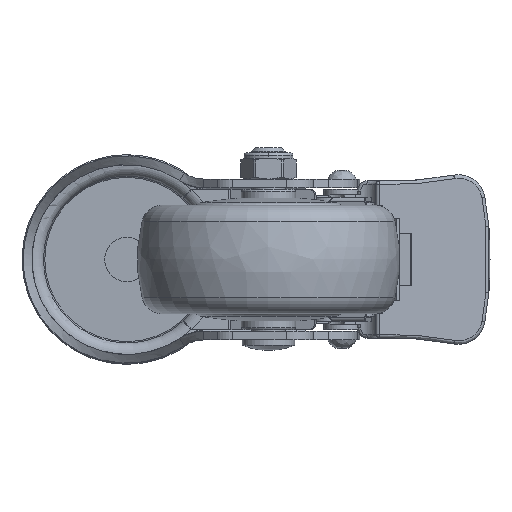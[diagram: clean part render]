
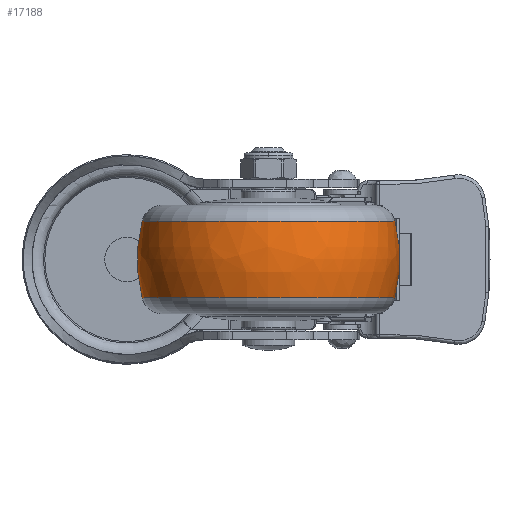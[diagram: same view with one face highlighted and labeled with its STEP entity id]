
A CAD part, front view. The second image highlights one B-rep face of the part: STEP entity #17188.
In plain terms, the highlighted free-form (B-spline) face has degree [3, 3] with [7, 4] control points.
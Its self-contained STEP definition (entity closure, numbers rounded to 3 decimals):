
#16497=CARTESIAN_POINT('',(-10.962,0.,0.));
#16498=DIRECTION('',(-1.,0.,0.));
#16499=DIRECTION('',(0.,1.,0.));
#16500=AXIS2_PLACEMENT_3D('',#16497,#16498,#16499);
#16512=CARTESIAN_POINT('',(0.,-7.5,0.));
#16513=DIRECTION('',(0.,0.,1.));
#16514=DIRECTION('',(0.244,0.97,0.));
#16515=AXIS2_PLACEMENT_3D('',#16512,#16513,#16514);
#16517=CARTESIAN_POINT('',(0.,7.5,0.));
#16518=DIRECTION('',(0.,0.,-1.));
#16519=DIRECTION('',(0.244,-0.97,0.));
#16520=AXIS2_PLACEMENT_3D('',#16517,#16518,#16519);
#16522=CARTESIAN_POINT('',(10.962,0.,0.));
#16523=DIRECTION('',(-1.,0.,0.));
#16524=DIRECTION('',(0.,1.,0.));
#16525=AXIS2_PLACEMENT_3D('',#16522,#16523,#16524);
#16762=CARTESIAN_POINT('',(10.962,36.145,0.));
#16764=VERTEX_POINT('',#16762);
#16765=CARTESIAN_POINT('',(-10.962,36.145,0.));
#16766=VERTEX_POINT('',#16765);
#16810=CARTESIAN_POINT('',(10.962,-36.145,0.));
#16812=VERTEX_POINT('',#16810);
#16813=CARTESIAN_POINT('',(-10.962,-36.145,0.));
#16814=VERTEX_POINT('',#16813);
#17152=CARTESIAN_POINT('',(-11.391,-35.963,
2.263));
#17153=CARTESIAN_POINT('',(-3.881,-37.924,
2.386));
#17154=CARTESIAN_POINT('',(3.881,-37.924,
2.386));
#17155=CARTESIAN_POINT('',(11.391,-35.963,
2.263));
#17156=CARTESIAN_POINT('',(-11.391,-37.356,
-19.869));
#17157=CARTESIAN_POINT('',(-3.881,-39.393,
-20.953));
#17158=CARTESIAN_POINT('',(3.881,-39.393,
-20.953));
#17159=CARTESIAN_POINT('',(11.391,-37.356,
-19.869));
#17160=CARTESIAN_POINT('',(-11.391,-22.176,
-36.035));
#17161=CARTESIAN_POINT('',(-3.881,-23.385,
-37.999));
#17162=CARTESIAN_POINT('',(3.881,-23.385,
-37.999));
#17163=CARTESIAN_POINT('',(11.391,-22.176,
-36.035));
#17164=CARTESIAN_POINT('',(-11.391,0.,-36.035));
#17165=CARTESIAN_POINT('',(-3.881,0.,-37.999));
#17166=CARTESIAN_POINT('',(3.881,0.,-37.999));
#17167=CARTESIAN_POINT('',(11.391,0.,-36.035));
#17168=CARTESIAN_POINT('',(-11.391,22.176,
-36.035));
#17169=CARTESIAN_POINT('',(-3.881,23.385,
-37.999));
#17170=CARTESIAN_POINT('',(3.881,23.385,
-37.999));
#17171=CARTESIAN_POINT('',(11.391,22.176,
-36.035));
#17172=CARTESIAN_POINT('',(-11.391,37.356,
-19.869));
#17173=CARTESIAN_POINT('',(-3.881,39.393,
-20.953));
#17174=CARTESIAN_POINT('',(3.881,39.393,
-20.953));
#17175=CARTESIAN_POINT('',(11.391,37.356,
-19.869));
#17176=CARTESIAN_POINT('',(-11.391,35.963,
2.263));
#17177=CARTESIAN_POINT('',(-3.881,37.924,
2.386));
#17178=CARTESIAN_POINT('',(3.881,37.924,2.386));
#17179=CARTESIAN_POINT('',(11.391,35.963,2.263));
#17180=(BOUNDED_SURFACE()B_SPLINE_SURFACE(3,3,((#17152,#17153,#17154,#17155),(
#17156,#17157,#17158,#17159),(#17160,#17161,#17162,#17163),(#17164,#17165,
#17166,#17167),(#17168,#17169,#17170,#17171),(#17172,#17173,#17174,#17175),(
#17176,#17177,#17178,#17179)),.UNSPECIFIED.,.F.,.F.,.F.)B_SPLINE_SURFACE_WITH_KNOTS((4,3,4),(4,4),(0.,1.,2.),(0.,1.),.UNSPECIFIED.)GEOMETRIC_REPRESENTATION_ITEM()RATIONAL_B_SPLINE_SURFACE(((1.207,1.181,
1.181,1.207),(0.953,0.932,
0.932,0.953),(0.953,0.932,
0.932,0.953),(1.207,1.181,
1.181,1.207),(0.953,0.932,
0.932,0.953),(0.953,0.932,
0.932,0.953),(1.207,1.181,
1.181,1.207)))REPRESENTATION_ITEM('')SURFACE());
#17181=ORIENTED_EDGE('',*,*,#17142,.T.);
#17182=ORIENTED_EDGE('',*,*,#17095,.T.);
#17183=ORIENTED_EDGE('',*,*,#17146,.F.);
#17185=ORIENTED_EDGE('',*,*,#17184,.F.);
#17186=EDGE_LOOP('',(#17181,#17182,#17183,#17185));
#17187=FACE_OUTER_BOUND('',#17186,.F.);
#16501=CIRCLE('',#16500,36.145);
#16516=CIRCLE('',#16515,45.);
#16521=CIRCLE('',#16520,45.);
#16526=CIRCLE('',#16525,36.145);
#17095=EDGE_CURVE('',#16766,#16814,#16501,.T.);
#17142=EDGE_CURVE('',#16764,#16766,#16516,.T.);
#17146=EDGE_CURVE('',#16812,#16814,#16521,.T.);
#17184=EDGE_CURVE('',#16764,#16812,#16526,.T.);
#17188=ADVANCED_FACE('',(#17187),#17180,.T.);
